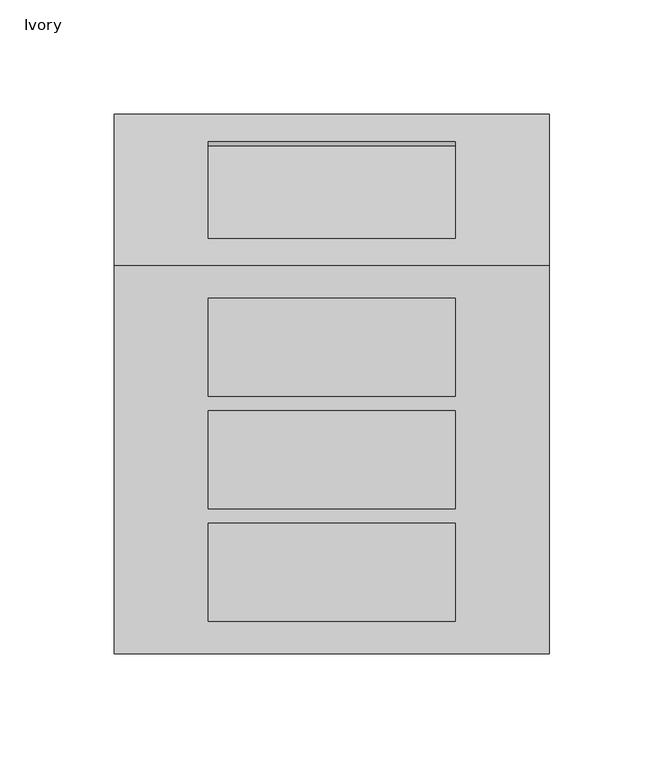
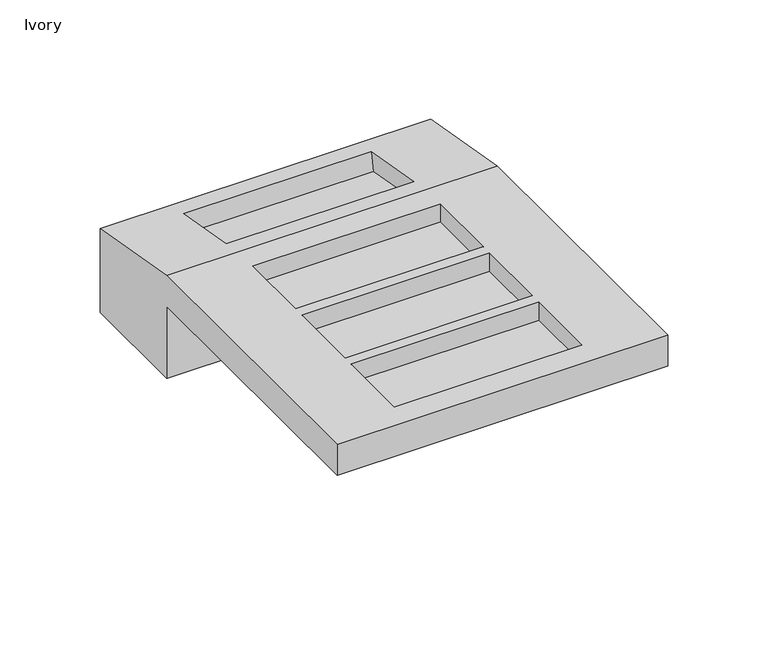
"""IFC4 building model written with IfcOpenShell, lengths in millimetres: proxy geometry, Device_Bracket-5500_Series-Wiremold-In_Line-Offset : Ivory."""

from ifc_helpers import new_model, si_unit, origin, place, context, project, spatial, faceted_brep, source, transform, mapped, element, save


def ivory_edc892b2(model_context):
    return source(origin(), model_context, "Body", "Brep", [
        faceted_brep([(53.975, 70.70725, 7.6708), (-53.975, 70.70725, 7.6708), (-53.975, 27.84475, 7.6708), (53.975, 27.84475, 7.6708), (53.975, 21.43125, 7.6708), (-53.975, 21.43125, 7.6708), (-53.975, -21.43125, 7.6708), (53.975, -21.43125, 7.6708), (53.975, -27.84475, 7.6708), (-53.975, -27.84475, 7.6708), (-53.975, -70.70725, 7.6708), (53.975, -70.70725, 7.6708), (53.975, 70.70725, 18.796), (-53.975, 70.70725, 18.796), (-53.975, 27.84475, 18.796), (53.975, 27.84475, 18.796), (53.975, 21.43125, 18.796), (-53.975, 21.43125, 18.796), (-53.975, -21.43125, 18.796), (53.975, -21.43125, 18.796), (53.975, -27.84475, 18.796), (-53.975, -27.84475, 18.796), (-53.975, -70.70725, 18.796), (53.975, -70.70725, 18.796), (95.25, 84.9376, 18.796), (95.25, -84.9376, 18.796), (95.25, -84.9376, 0.0), (95.25, 84.9376, 0.0), (95.25, 84.9376, -43.942), (95.25, 151.2824, -43.942), (95.25, 151.2824, 7.0976217), (-95.25, 84.9376, 18.796), (-95.25, 151.2824, 7.0976217), (-95.25, 151.2824, -43.942), (-95.25, 84.9376, -43.942), (-95.25, 84.9376, 0.0), (-95.25, -84.9376, 0.0), (-95.25, -84.9376, 18.796), (53.975, 97.0043388, 16.6683084), (-53.975, 97.0043388, 16.6683084), (-53.975, 139.2156612, 9.2253134), (53.975, 139.2156612, 9.2253134), (53.975, 95.0724681, 5.7121252), (53.975, 137.2837905, -1.7308699), (-53.975, 137.2837905, -1.7308699), (-53.975, 95.0724681, 5.7121252)], [[[0, 1, 2, 3]], [[4, 5, 6, 7]], [[8, 9, 10, 11]], [[1, 0, 12, 13]], [[2, 1, 13, 14]], [[3, 2, 14, 15]], [[0, 3, 15, 12]], [[5, 4, 16, 17]], [[6, 5, 17, 18]], [[7, 6, 18, 19]], [[4, 7, 19, 16]], [[9, 8, 20, 21]], [[10, 9, 21, 22]], [[11, 10, 22, 23]], [[8, 11, 23, 20]], [[24, 25, 26, 27, 28, 29, 30]], [[31, 32, 33, 34, 35, 36, 37]], [[25, 24, 31, 37], [13, 12, 15, 14], [17, 16, 19, 18], [21, 20, 23, 22]], [[26, 25, 37, 36]], [[27, 26, 36, 35]], [[28, 27, 35, 34]], [[29, 28, 34, 33]], [[30, 29, 33, 32]], [[24, 30, 32, 31], [38, 39, 40, 41]], [[42, 43, 44, 45]], [[42, 45, 39, 38]], [[45, 44, 40, 39]], [[44, 43, 41, 40]], [[43, 42, 38, 41]]]),
    ])


if __name__ == "__main__":
    model = new_model("IFC4")
    model_context = context("Model", 3, world=origin())
    ifc_project = project(units=[si_unit("LENGTHUNIT", "METRE", prefix="MILLI")], contexts=[model_context])
    site = spatial("IfcSite", under=ifc_project)
    building = spatial("IfcBuilding", under=site)
    placement = place(None, origin())
    ivory_shape = ivory_edc892b2(model_context)
    element("IfcBuildingElementProxy", 1, Name="Device_Bracket-5500_Series-Wiremold-In_Line-Offset : Ivory", ObjectType="Device_Bracket-5500_Series-Wiremold-In_Line-Offset : Ivory", at=placement, inside=building, context=model_context, shape_type="MappedRepresentation", body=[
        mapped(ivory_shape, transform((0.0, 0.0, 0.0), x_axis=(1.0, 0.0, 0.0), y_axis=(0.0, 1.0, 0.0), z_axis=(0.0, 0.0, 1.0))),
    ])
    save(model, "model.ifc")
